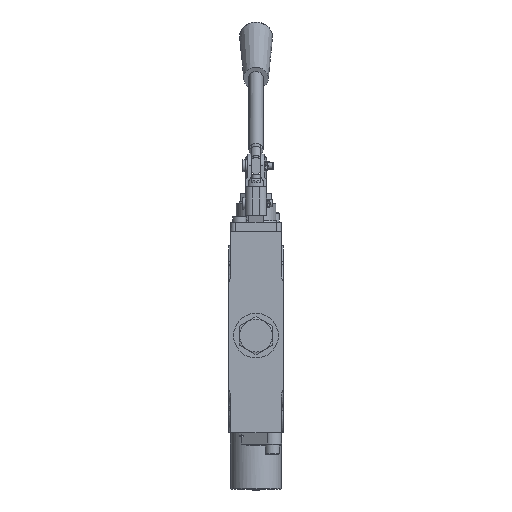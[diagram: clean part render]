
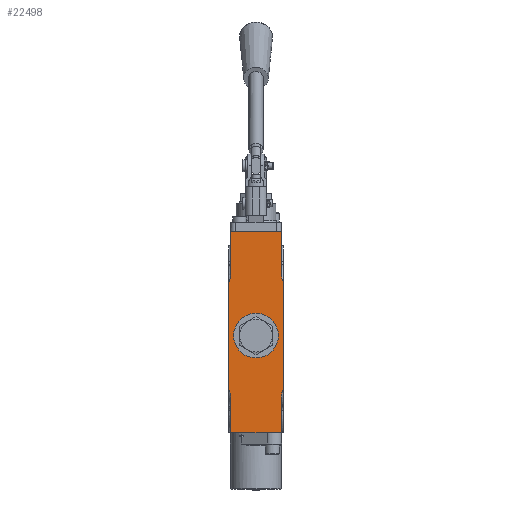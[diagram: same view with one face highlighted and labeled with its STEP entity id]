
A CAD part, front view. The second image highlights one B-rep face of the part: STEP entity #22498.
In plain terms, the highlighted planar face has unit normal (0, -1, 0).
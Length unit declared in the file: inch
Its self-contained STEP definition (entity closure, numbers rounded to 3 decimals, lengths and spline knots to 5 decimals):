
#9284=CARTESIAN_POINT('',(-0.671,-1.656,2.6725));
#9285=VERTEX_POINT('',#9284);
#9292=CARTESIAN_POINT('',(0.671,-1.656,2.6725));
#9293=VERTEX_POINT('',#9292);
#9294=CARTESIAN_POINT('',(0.671,-1.656,2.6725));
#9295=DIRECTION('',(-1.0,0.0,0.0));
#9296=VECTOR('',#9295,1.342);
#9297=LINE('',#9294,#9296);
#9298=EDGE_CURVE('',#9293,#9285,#9297,.T.);
#10510=CARTESIAN_POINT('',(0.7185,-1.656,1.32328));
#10511=VERTEX_POINT('',#10510);
#10520=CARTESIAN_POINT('',(0.671,-1.656,1.53819));
#10521=VERTEX_POINT('',#10520);
#10529=CARTESIAN_POINT('',(0.671,-1.656,1.53819));
#10530=CARTESIAN_POINT('',(0.671,-1.656,1.49969));
#10531=CARTESIAN_POINT('',(0.6795,-1.656,1.45427));
#10532=CARTESIAN_POINT('',(0.69707,-1.656,1.38755));
#10533=CARTESIAN_POINT('',(0.7077,-1.656,1.35461));
#10534=CARTESIAN_POINT('',(0.7185,-1.656,1.32328));
#10535=B_SPLINE_CURVE_WITH_KNOTS('',3,(#10529,#10530,#10531,#10532,#10533,#10534),.UNSPECIFIED.,.F.,.U.,(4,2,4),(1.33674,1.63016,1.86249),.UNSPECIFIED.);
#10536=EDGE_CURVE('',#10521,#10511,#10535,.T.);
#11012=CARTESIAN_POINT('',(-0.671,-1.656,1.53819));
#11013=VERTEX_POINT('',#11012);
#11021=CARTESIAN_POINT('',(-0.671,-1.656,1.53819));
#11022=DIRECTION('',(0.0,0.0,1.0));
#11023=VECTOR('',#11022,1.13431);
#11024=LINE('',#11021,#11023);
#11025=EDGE_CURVE('',#11013,#9285,#11024,.T.);
#14862=CARTESIAN_POINT('',(0.671,-1.656,1.53819));
#14863=DIRECTION('',(0.0,0.0,1.0));
#14864=VECTOR('',#14863,1.13431);
#14865=LINE('',#14862,#14864);
#14866=EDGE_CURVE('',#10521,#9293,#14865,.T.);
#22409=CARTESIAN_POINT('',(0.671,-1.656,0.0));
#22410=DIRECTION('',(0.0,-1.0,0.0));
#22411=DIRECTION('',(0.0,0.0,-1.0));
#22412=AXIS2_PLACEMENT_3D('',#22409,#22410,#22411);
#22413=PLANE('',#22412);
#22414=CARTESIAN_POINT('',(-0.7185,-1.656,1.32328));
#22415=VERTEX_POINT('',#22414);
#22416=CARTESIAN_POINT('',(-0.7185,-1.656,-1.51228));
#22417=VERTEX_POINT('',#22416);
#22418=CARTESIAN_POINT('',(-0.7185,-1.656,1.32328));
#22419=DIRECTION('',(0.0,0.0,-1.0));
#22420=VECTOR('',#22419,2.83556);
#22421=LINE('',#22418,#22420);
#22422=EDGE_CURVE('',#22415,#22417,#22421,.T.);
#22423=ORIENTED_EDGE('',*,*,#22422,.T.);
#22424=CARTESIAN_POINT('',(-0.671,-1.656,-1.72719));
#22425=VERTEX_POINT('',#22424);
#22426=CARTESIAN_POINT('',(-0.671,-1.656,-1.72719));
#22427=CARTESIAN_POINT('',(-0.671,-1.656,-1.65792));
#22428=CARTESIAN_POINT('',(-0.69466,-1.656,-1.58143));
#22429=CARTESIAN_POINT('',(-0.7185,-1.656,-1.51228));
#22430=B_SPLINE_CURVE_WITH_KNOTS('',3,(#22426,#22427,#22428,#22429),.UNSPECIFIED.,.F.,.U.,(4,4),(1.33253,1.86036),.UNSPECIFIED.);
#22431=EDGE_CURVE('',#22425,#22417,#22430,.T.);
#22432=ORIENTED_EDGE('',*,*,#22431,.F.);
#22433=CARTESIAN_POINT('',(-0.671,-1.656,-2.6715));
#22434=VERTEX_POINT('',#22433);
#22435=CARTESIAN_POINT('',(-0.671,-1.656,-2.6715));
#22436=DIRECTION('',(0.0,0.0,1.0));
#22437=VECTOR('',#22436,0.94431);
#22438=LINE('',#22435,#22437);
#22439=EDGE_CURVE('',#22434,#22425,#22438,.T.);
#22440=ORIENTED_EDGE('',*,*,#22439,.F.);
#22441=CARTESIAN_POINT('',(0.671,-1.656,-2.6715));
#22442=VERTEX_POINT('',#22441);
#22443=CARTESIAN_POINT('',(-0.671,-1.656,-2.6715));
#22444=DIRECTION('',(1.0,0.0,0.0));
#22445=VECTOR('',#22444,1.342);
#22446=LINE('',#22443,#22445);
#22447=EDGE_CURVE('',#22434,#22442,#22446,.T.);
#22448=ORIENTED_EDGE('',*,*,#22447,.T.);
#22449=CARTESIAN_POINT('',(0.671,-1.656,-1.72719));
#22450=VERTEX_POINT('',#22449);
#22451=CARTESIAN_POINT('',(0.671,-1.656,-2.6715));
#22452=DIRECTION('',(0.0,0.0,1.0));
#22453=VECTOR('',#22452,0.94431);
#22454=LINE('',#22451,#22453);
#22455=EDGE_CURVE('',#22442,#22450,#22454,.T.);
#22456=ORIENTED_EDGE('',*,*,#22455,.T.);
#22457=CARTESIAN_POINT('',(0.7185,-1.656,-1.51228));
#22458=VERTEX_POINT('',#22457);
#22459=CARTESIAN_POINT('',(0.7185,-1.656,-1.51228));
#22460=CARTESIAN_POINT('',(0.7077,-1.656,-1.54361));
#22461=CARTESIAN_POINT('',(0.69707,-1.656,-1.57655));
#22462=CARTESIAN_POINT('',(0.6795,-1.656,-1.64327));
#22463=CARTESIAN_POINT('',(0.671,-1.656,-1.68869));
#22464=CARTESIAN_POINT('',(0.671,-1.656,-1.72719));
#22465=B_SPLINE_CURVE_WITH_KNOTS('',3,(#22459,#22460,#22461,#22462,#22463,#22464),.UNSPECIFIED.,.F.,.U.,(4,2,4),(0.10963,0.34196,0.63538),.UNSPECIFIED.);
#22466=EDGE_CURVE('',#22458,#22450,#22465,.T.);
#22467=ORIENTED_EDGE('',*,*,#22466,.F.);
#22468=CARTESIAN_POINT('',(0.7185,-1.656,-1.51228));
#22469=DIRECTION('',(0.0,0.0,1.0));
#22470=VECTOR('',#22469,2.83556);
#22471=LINE('',#22468,#22470);
#22472=EDGE_CURVE('',#22458,#10511,#22471,.T.);
#22473=ORIENTED_EDGE('',*,*,#22472,.T.);
#22474=ORIENTED_EDGE('',*,*,#10536,.F.);
#22475=ORIENTED_EDGE('',*,*,#14866,.T.);
#22476=ORIENTED_EDGE('',*,*,#9298,.T.);
#22477=ORIENTED_EDGE('',*,*,#11025,.F.);
#22478=CARTESIAN_POINT('',(-0.7185,-1.656,1.32328));
#22479=CARTESIAN_POINT('',(-0.69466,-1.656,1.39243));
#22480=CARTESIAN_POINT('',(-0.671,-1.656,1.46892));
#22481=CARTESIAN_POINT('',(-0.671,-1.656,1.53819));
#22482=B_SPLINE_CURVE_WITH_KNOTS('',3,(#22478,#22479,#22480,#22481),.UNSPECIFIED.,.F.,.U.,(4,4),(0.11176,0.63959),.UNSPECIFIED.);
#22483=EDGE_CURVE('',#22415,#11013,#22482,.T.);
#22484=ORIENTED_EDGE('',*,*,#22483,.F.);
#22485=EDGE_LOOP('',(#22423,#22432,#22440,#22448,#22456,#22467,#22473,#22474,#22475,#22476,#22477,#22484));
#22486=FACE_OUTER_BOUND('',#22485,.T.);
#22487=CARTESIAN_POINT('',(0.594,-1.656,-0.0935));
#22488=VERTEX_POINT('',#22487);
#22489=CARTESIAN_POINT('',(0.,-1.656,-0.0935));
#22490=DIRECTION('',(0.0,1.0,0.0));
#22491=DIRECTION('',(1.0,0.0,0.0));
#22492=AXIS2_PLACEMENT_3D('',#22489,#22490,#22491);
#22493=CIRCLE('',#22492,0.594);
#22494=EDGE_CURVE('',#22488,#22488,#22493,.T.);
#22495=ORIENTED_EDGE('',*,*,#22494,.T.);
#22496=EDGE_LOOP('',(#22495));
#22497=FACE_BOUND('',#22496,.T.);
#22498=ADVANCED_FACE('',(#22486,#22497),#22413,.T.);
